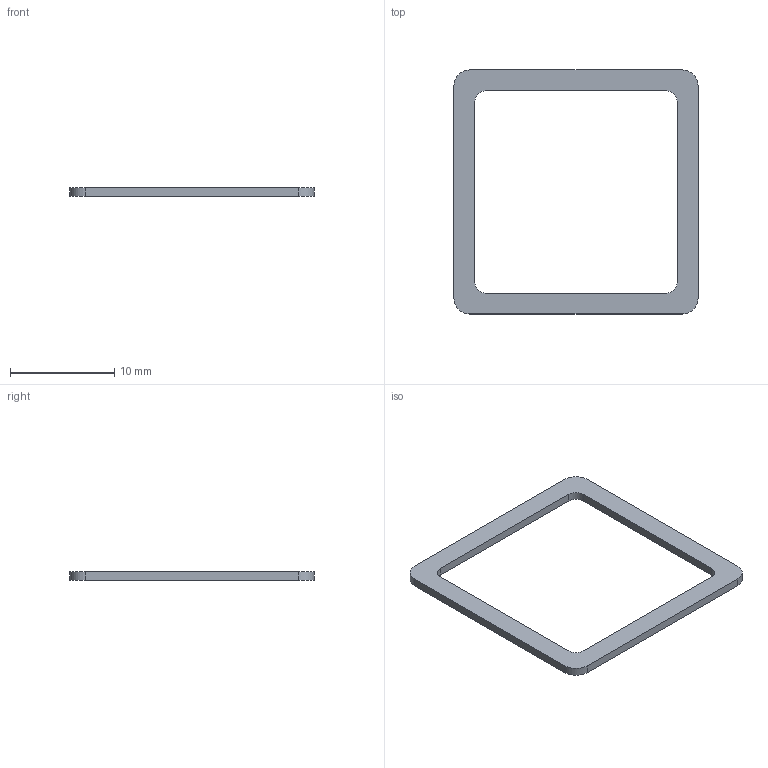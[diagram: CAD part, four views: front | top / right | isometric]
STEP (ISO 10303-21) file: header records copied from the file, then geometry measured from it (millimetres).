
FILE_DESCRIPTION(('Open CASCADE Model'),'2;1');
FILE_NAME('Open CASCADE Shape Model','2026-10-06T20:45:12',('Author'),( 'Open CASCADE'),'Open CASCADE STEP processor 7.9','Open CASCADE 7.9' ,'Unknown');
FILE_SCHEMA(('AUTOMOTIVE_DESIGN { 1 0 10303 214 1 1 1 1 }'));
Length unit declared in the file: millimetre
Products named in the file (1): Open CASCADE STEP translator 7.9 4
Bounding box: 23.4 x 23.4 x 0.8 mm (x, y, z)
Volume: 136.1 mm3; surface area: 473.8 mm2
Topology: 1 solids, 1 shells, 18 faces, 48 edges, 32 vertices
Faces by surface type: plane 10, cylinder 8
Entity records: 1202 total; most frequent: CARTESIAN_POINT 235, DIRECTION 178, ORIENTED_EDGE 96, LINE 96, VECTOR 96, PCURVE 96, DEFINITIONAL_REPRESENTATION 96, EDGE_CURVE 48
